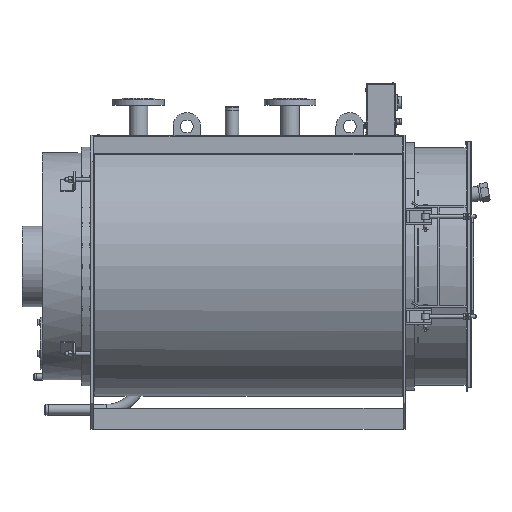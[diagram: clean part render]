
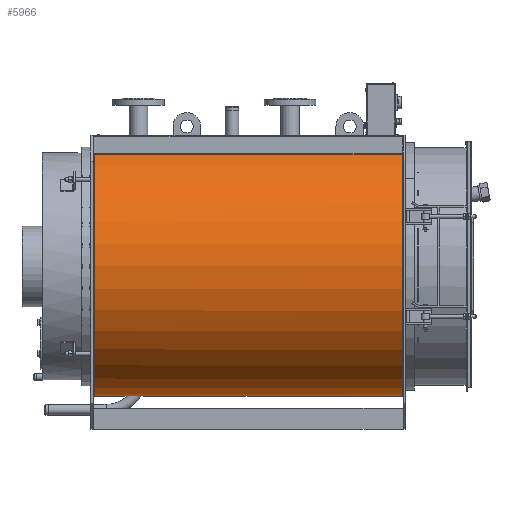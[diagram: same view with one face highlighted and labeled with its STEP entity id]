
A CAD part, front view. The second image highlights one B-rep face of the part: STEP entity #5966.
In plain terms, the highlighted cylindrical face has radius 401.7 mm (diameter 803.4 mm), a partial arc.
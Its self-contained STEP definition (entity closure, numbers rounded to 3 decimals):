
#5966=ADVANCED_FACE('',(#41227),#41229,.T.);
#41227=FACE_BOUND('',#41228,.T.);
#41228=EDGE_LOOP('',(#77598,#77599,#77600,#77601,#77602,#77603,#77604,#77605,#77606));
#41229=CYLINDRICAL_SURFACE('',#41230,401.7);
#41230=AXIS2_PLACEMENT_3D('',#41231,#41232,#41233);
#41231=CARTESIAN_POINT('',(-963.,0.,0.));
#41232=DIRECTION('',(1.,0.,0.));
#41233=DIRECTION('',(0.,0.037,0.999));
#77598=ORIENTED_EDGE('',*,*,#89865,.F.);
#77599=ORIENTED_EDGE('',*,*,#89877,.T.);
#77600=ORIENTED_EDGE('',*,*,#90277,.T.);
#77601=ORIENTED_EDGE('',*,*,#90278,.T.);
#77602=ORIENTED_EDGE('',*,*,#90279,.T.);
#77603=ORIENTED_EDGE('',*,*,#90280,.T.);
#77604=ORIENTED_EDGE('',*,*,#90281,.T.);
#77605=ORIENTED_EDGE('',*,*,#90282,.F.);
#77606=ORIENTED_EDGE('',*,*,#89878,.T.);
#89865=EDGE_CURVE('',#97879,#97880,#97881,.T.);
#89877=EDGE_CURVE('',#97879,#97899,#97901,.T.);
#89878=EDGE_CURVE('',#97902,#97880,#97903,.T.);
#90277=EDGE_CURVE('',#97899,#98563,#98564,.F.);
#90278=EDGE_CURVE('',#98563,#98565,#98566,.F.);
#90279=EDGE_CURVE('',#98565,#98567,#98568,.F.);
#90280=EDGE_CURVE('',#98567,#98569,#98570,.F.);
#90281=EDGE_CURVE('',#98569,#98571,#98572,.F.);
#90282=EDGE_CURVE('',#97902,#98571,#98573,.T.);
#97879=VERTEX_POINT('',#116500);
#97880=VERTEX_POINT('',#116501);
#97881=LINE('',#116502,#116503);
#97899=VERTEX_POINT('',#116580);
#97901=CIRCLE('',#116584,401.7);
#97902=VERTEX_POINT('',#116588);
#97903=CIRCLE('',#116589,401.7);
#98563=VERTEX_POINT('',#121247);
#98564=LINE('',#121248,#121249);
#98565=VERTEX_POINT('',#121251);
#98566=B_SPLINE_CURVE_WITH_KNOTS('',3,
(#121252,#121253,#121254,#121255,#121256,#121257,#121258,#121259,#121260,#121261,
#121262,#121263,#121264,#121265),
.UNSPECIFIED.,.F.,.F.,
(4,1,1,1,1,1,1,1,1,1,1,4),
(0.,0.109,0.204,0.29,0.377,0.467,
0.555,0.644,0.733,0.821,0.91,
1.),
.UNSPECIFIED.);
#98567=VERTEX_POINT('',#121266);
#98568=B_SPLINE_CURVE_WITH_KNOTS('',3,
(#121267,#121268,#121269,#121270,#121271,#121272,#121273,#121274,#121275,#121276,
#121277,#121278,#121279,#121280),
.UNSPECIFIED.,.F.,.F.,
(4,1,1,1,1,1,1,1,1,1,1,4),
(0.,0.109,0.204,0.289,0.377,0.467,
0.555,0.645,0.734,0.821,0.91,
1.),
.UNSPECIFIED.);
#98569=VERTEX_POINT('',#121281);
#98570=LINE('',#121282,#121283);
#98571=VERTEX_POINT('',#121285);
#98572=B_SPLINE_CURVE_WITH_KNOTS('',3,
(#121286,#121287,#121288,#121289,#121290,#121291,#121292,#121293,#121294,#121295,
#121296,#121297,#121298,#121299,#121300,#121301,#121302),
.UNSPECIFIED.,.F.,.F.,
(4,1,1,1,1,1,1,1,1,1,1,1,1,1,4),
(0.,0.087,0.163,0.23,0.3,0.372,
0.442,0.513,0.584,0.655,0.726,
0.798,0.867,0.935,1.),
.UNSPECIFIED.);
#98573=LINE('',#121303,#121304);
#116500=CARTESIAN_POINT('',(-963.,-200.,348.372));
#116501=CARTESIAN_POINT('',(-9.,-200.,348.372));
#116502=CARTESIAN_POINT('',(-963.,-200.,348.372));
#116503=VECTOR('',#116504,1.);
#116504=DIRECTION('',(1.,0.,0.));
#116580=CARTESIAN_POINT('',(-963.,-2.002,-401.695));
#116584=AXIS2_PLACEMENT_3D('',#116585,#116586,#116587);
#116585=CARTESIAN_POINT('',(-963.,0.,0.));
#116586=DIRECTION('',(1.,0.,0.));
#116587=DIRECTION('',(0.,-0.498,0.867));
#116588=CARTESIAN_POINT('',(-9.,0.,-401.7));
#116589=AXIS2_PLACEMENT_3D('',#116590,#116591,#116592);
#116590=CARTESIAN_POINT('',(-9.,0.,0.));
#116591=DIRECTION('',(-1.,0.,0.));
#116592=DIRECTION('',(0.,0.,-1.));
#121247=CARTESIAN_POINT('',(-887.583,-2.002,-401.695));
#121248=CARTESIAN_POINT('',(-887.583,-2.002,-401.695));
#121249=VECTOR('',#121250,1.);
#121250=DIRECTION('',(-1.,0.,0.));
#121251=CARTESIAN_POINT('',(-876.055,-9.674,-401.583));
#121252=CARTESIAN_POINT('',(-876.055,-9.674,-401.583));
#121253=CARTESIAN_POINT('',(-876.262,-9.181,-401.595));
#121254=CARTESIAN_POINT('',(-876.708,-8.283,-401.615));
#121255=CARTESIAN_POINT('',(-877.487,-7.097,-401.638));
#121256=CARTESIAN_POINT('',(-878.318,-6.083,-401.654));
#121257=CARTESIAN_POINT('',(-879.228,-5.177,-401.667));
#121258=CARTESIAN_POINT('',(-880.241,-4.359,-401.677));
#121259=CARTESIAN_POINT('',(-881.341,-3.647,-401.684));
#121260=CARTESIAN_POINT('',(-882.506,-3.055,-401.688));
#121261=CARTESIAN_POINT('',(-883.72,-2.591,-401.692));
#121262=CARTESIAN_POINT('',(-884.976,-2.254,-401.694));
#121263=CARTESIAN_POINT('',(-886.265,-2.048,-401.695));
#121264=CARTESIAN_POINT('',(-887.142,-2.002,-401.695));
#121265=CARTESIAN_POINT('',(-887.583,-2.002,-401.695));
#121266=CARTESIAN_POINT('',(-853.,-25.006,-400.921));
#121267=CARTESIAN_POINT('',(-853.,-25.006,-400.921));
#121268=CARTESIAN_POINT('',(-854.068,-25.006,-400.921));
#121269=CARTESIAN_POINT('',(-856.067,-24.877,-400.929));
#121270=CARTESIAN_POINT('',(-858.855,-24.359,-400.961));
#121271=CARTESIAN_POINT('',(-861.366,-23.611,-401.006));
#121272=CARTESIAN_POINT('',(-863.741,-22.633,-401.062));
#121273=CARTESIAN_POINT('',(-866.034,-21.396,-401.131));
#121274=CARTESIAN_POINT('',(-868.199,-19.916,-401.207));
#121275=CARTESIAN_POINT('',(-870.193,-18.222,-401.288));
#121276=CARTESIAN_POINT('',(-871.991,-16.337,-401.369));
#121277=CARTESIAN_POINT('',(-873.582,-14.278,-401.448));
#121278=CARTESIAN_POINT('',(-874.955,-12.062,-401.521));
#121279=CARTESIAN_POINT('',(-875.716,-10.485,-401.564));
#121280=CARTESIAN_POINT('',(-876.055,-9.674,-401.583));
#121281=CARTESIAN_POINT('',(-828.,-25.006,-400.921));
#121282=CARTESIAN_POINT('',(-828.,-25.006,-400.921));
#121283=VECTOR('',#121284,1.);
#121284=DIRECTION('',(-1.,0.,0.));
#121285=CARTESIAN_POINT('',(-803.,0.,-401.7));
#121286=CARTESIAN_POINT('',(-803.,0.,-401.7));
#121287=CARTESIAN_POINT('',(-803.,-1.138,-401.7));
#121288=CARTESIAN_POINT('',(-803.146,-3.27,-401.691));
#121289=CARTESIAN_POINT('',(-803.734,-6.235,-401.655));
#121290=CARTESIAN_POINT('',(-804.582,-8.897,-401.604));
#121291=CARTESIAN_POINT('',(-805.69,-11.402,-401.541));
#121292=CARTESIAN_POINT('',(-807.088,-13.804,-401.465));
#121293=CARTESIAN_POINT('',(-808.758,-16.051,-401.381));
#121294=CARTESIAN_POINT('',(-810.66,-18.091,-401.294));
#121295=CARTESIAN_POINT('',(-812.781,-19.909,-401.208));
#121296=CARTESIAN_POINT('',(-815.091,-21.478,-401.126));
#121297=CARTESIAN_POINT('',(-817.564,-22.782,-401.054));
#121298=CARTESIAN_POINT('',(-820.15,-23.796,-400.995));
#121299=CARTESIAN_POINT('',(-822.789,-24.507,-400.952));
#121300=CARTESIAN_POINT('',(-825.41,-24.917,-400.927));
#121301=CARTESIAN_POINT('',(-827.147,-25.006,-400.921));
#121302=CARTESIAN_POINT('',(-828.,-25.006,-400.921));
#121303=CARTESIAN_POINT('',(-9.,0.,-401.7));
#121304=VECTOR('',#121305,1.);
#121305=DIRECTION('',(-1.,0.,0.));
